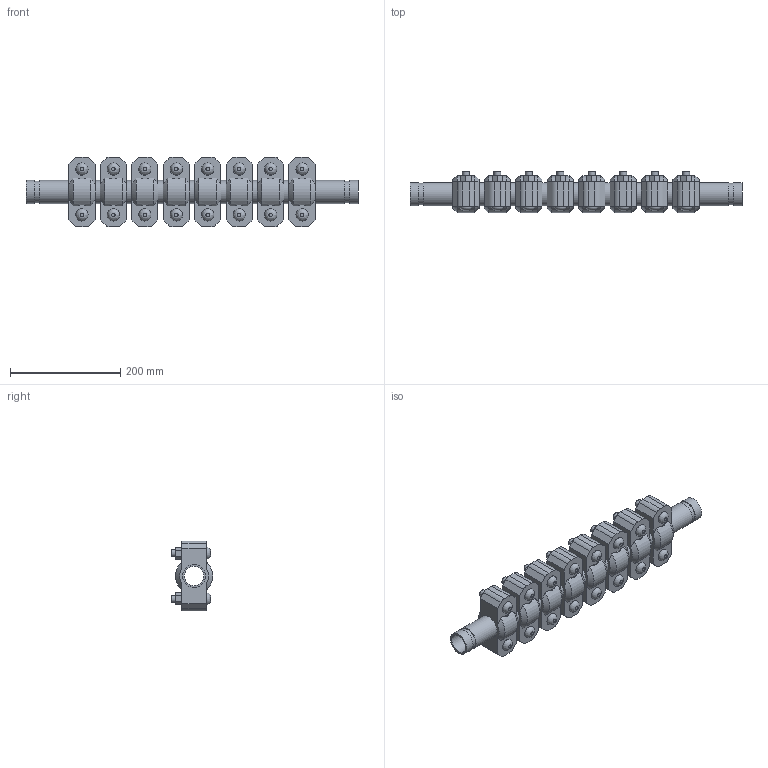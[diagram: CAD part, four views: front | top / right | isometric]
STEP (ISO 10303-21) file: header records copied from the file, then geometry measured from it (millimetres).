
FILE_DESCRIPTION(/* description */ ('VIC EXPANSION JOINT 8 COUPLINGS COMPRESSED STYLE 155 (OGS)','CAx-IF Rec.Pracs.---Representation and Presentation of Product Manufacturing Information (PMI)---4.0---2014-10-13'),/* implementation_level */ '2;1');
FILE_NAME(/* name */ 'C:\Users\kkamble\AppData\Roaming\Autodesk\ApplicationPlugins\Victaulic.Temp\A709\Victaulic_IPS_Expansion Joint_Compressed_8 Couplings_Style 155 (OGS)_1.25 (32).stp',/* time_stamp */ '2021-06-27T00:35:43+02:00',/* author */ ('kkamble'),/* organization */ ('Victaulic'),/* preprocessor_version */ 'ST-DEVELOPER v17.2',/* originating_system */ 'Autodesk Inventor 2019',/* authorisation */ '');
FILE_SCHEMA (('AP242_MANAGED_MODEL_BASED_3D_ENGINEERING_MIM_LF { 1 0 10303 442 1 1 4 }'));
Length unit declared in the file: inch
Products named in the file (4): 155-01.25; Nipple-01.25; Nipple-01.25_1; 077-01.25
Assembly tree (17 placements, depth 2):
  155-01.25
    Nipple-01.25  x2
    Nipple-01.25_1  x7
    077-01.25  x8
Bounding box: 603.25 x 74.93 x 127 mm (x, y, z)
Volume: 2073483.4 mm3; surface area: 487794.7 mm2
Topology: 17 solids, 33 shells, 564 faces, 1382 edges, 968 vertices
Faces by surface type: plane 326, cylinder 190, cone 32, bspline 16
Full cylindrical faces by diameter (mm): 12.7 x32, 14.605 x16, 35.052 x9, 38.989 x18, 42.164 x35
Entity records: 2923 total; most frequent: CARTESIAN_POINT 547, DIRECTION 479, ORIENTED_EDGE 398, EDGE_CURVE 199, AXIS2_PLACEMENT_3D 192, VERTEX_POINT 142, EDGE_LOOP 105, LINE 95
